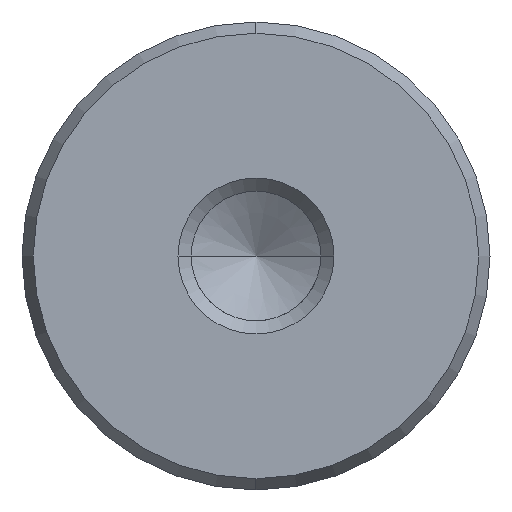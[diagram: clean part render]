
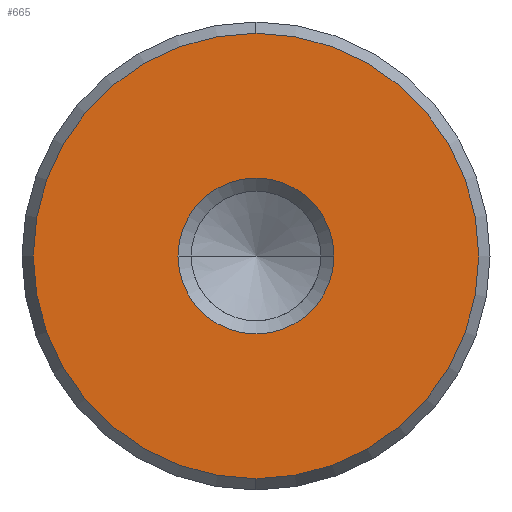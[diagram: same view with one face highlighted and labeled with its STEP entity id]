
A CAD part, left-side view. The second image highlights one B-rep face of the part: STEP entity #665.
In plain terms, the highlighted planar face has unit normal (-1, 0, 0).
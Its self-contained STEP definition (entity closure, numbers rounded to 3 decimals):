
#579=CARTESIAN_POINT('Vertex',(0.,0.,-11.423)) ;
#582=CARTESIAN_POINT('Axis2P3D Location',(0.,0.,0.)) ;
#586=CARTESIAN_POINT('Vertex',(0.,11.423,0.)) ;
#589=CARTESIAN_POINT('Axis2P3D Location',(0.,0.,0.)) ;
#593=CARTESIAN_POINT('Vertex',(0.,0.,11.423)) ;
#615=CARTESIAN_POINT('Axis2P3D Location',(0.,0.,0.)) ;
#619=CARTESIAN_POINT('Vertex',(0.,-11.423,0.)) ;
#622=CARTESIAN_POINT('Axis2P3D Location',(0.,0.,0.)) ;
#636=CARTESIAN_POINT('Axis2P3D Location',(0.,0.,0.)) ;
#647=CARTESIAN_POINT('Axis2P3D Location',(0.,0.,0.)) ;
#651=CARTESIAN_POINT('Vertex',(0.,4.,0.)) ;
#653=CARTESIAN_POINT('Vertex',(0.,-4.,0.)) ;
#656=CARTESIAN_POINT('Axis2P3D Location',(0.,0.,0.)) ;
#583=DIRECTION('Axis2P3D Direction',(1.,0.,-0.)) ;
#590=DIRECTION('Axis2P3D Direction',(1.,0.,-0.)) ;
#616=DIRECTION('Axis2P3D Direction',(1.,0.,-0.)) ;
#623=DIRECTION('Axis2P3D Direction',(1.,0.,-0.)) ;
#637=DIRECTION('Axis2P3D Direction',(1.,0.,-0.)) ;
#638=DIRECTION('Axis2P3D XDirection',(-0.,0.,-1.)) ;
#648=DIRECTION('Axis2P3D Direction',(1.,0.,-0.)) ;
#657=DIRECTION('Axis2P3D Direction',(1.,0.,-0.)) ;
#584=AXIS2_PLACEMENT_3D('Circle Axis2P3D',#582,#583,$) ;
#591=AXIS2_PLACEMENT_3D('Circle Axis2P3D',#589,#590,$) ;
#617=AXIS2_PLACEMENT_3D('Circle Axis2P3D',#615,#616,$) ;
#624=AXIS2_PLACEMENT_3D('Circle Axis2P3D',#622,#623,$) ;
#639=AXIS2_PLACEMENT_3D('Plane Axis2P3D',#636,#637,#638) ;
#649=AXIS2_PLACEMENT_3D('Circle Axis2P3D',#647,#648,$) ;
#658=AXIS2_PLACEMENT_3D('Circle Axis2P3D',#656,#657,$) ;
#642=ORIENTED_EDGE('',*,*,#588,.F.) ;
#643=ORIENTED_EDGE('',*,*,#626,.F.) ;
#644=ORIENTED_EDGE('',*,*,#621,.F.) ;
#645=ORIENTED_EDGE('',*,*,#595,.F.) ;
#662=ORIENTED_EDGE('',*,*,#655,.T.) ;
#663=ORIENTED_EDGE('',*,*,#660,.T.) ;
#664=FACE_BOUND('',#661,.T.) ;
#665=ADVANCED_FACE('720-24x400',(#646,#664),#640,.F.) ;
#585=CIRCLE('generated circle',#584,11.423) ;
#592=CIRCLE('generated circle',#591,11.423) ;
#618=CIRCLE('generated circle',#617,11.423) ;
#625=CIRCLE('generated circle',#624,11.423) ;
#650=CIRCLE('generated circle',#649,4.) ;
#659=CIRCLE('generated circle',#658,4.) ;
#588=EDGE_CURVE('',#580,#587,#585,.T.) ;
#595=EDGE_CURVE('',#587,#594,#592,.T.) ;
#621=EDGE_CURVE('',#594,#620,#618,.T.) ;
#626=EDGE_CURVE('',#620,#580,#625,.T.) ;
#655=EDGE_CURVE('',#652,#654,#650,.T.) ;
#660=EDGE_CURVE('',#654,#652,#659,.T.) ;
#641=EDGE_LOOP('',(#642,#643,#644,#645)) ;
#661=EDGE_LOOP('',(#662,#663)) ;
#646=FACE_OUTER_BOUND('',#641,.T.) ;
#640=PLANE('Plane',#639) ;
#580=VERTEX_POINT('',#579) ;
#587=VERTEX_POINT('',#586) ;
#594=VERTEX_POINT('',#593) ;
#620=VERTEX_POINT('',#619) ;
#652=VERTEX_POINT('',#651) ;
#654=VERTEX_POINT('',#653) ;
